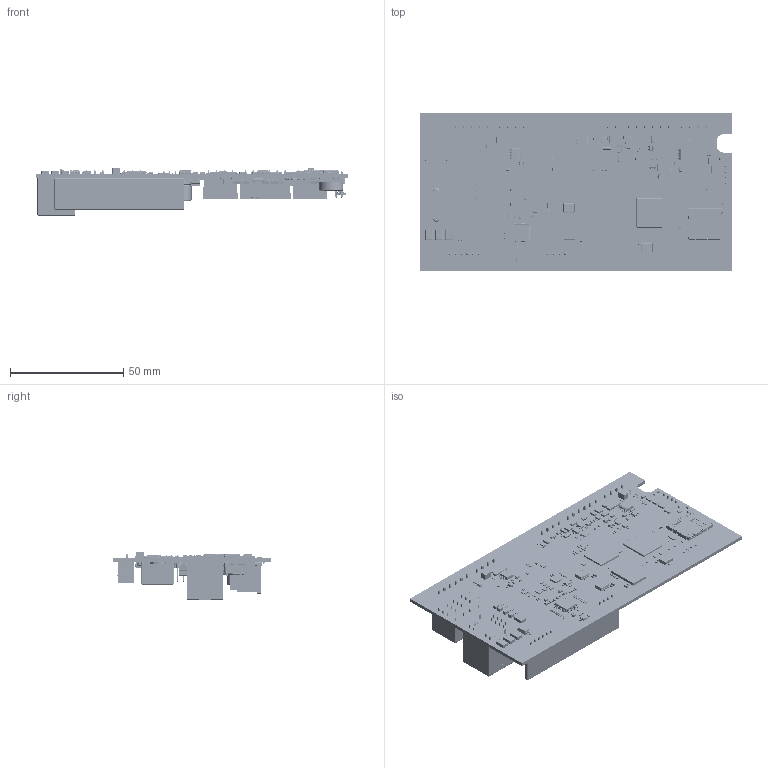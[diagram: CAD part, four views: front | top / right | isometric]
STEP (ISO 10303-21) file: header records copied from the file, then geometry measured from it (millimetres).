
FILE_DESCRIPTION(('Open CASCADE Model'),'2;1');
FILE_NAME('Open CASCADE Shape Model','2024-03-14T09:10:15',('Author'),( 'Open CASCADE'),'Open CASCADE STEP processor 7.5','Open CASCADE 7.5' ,'Unknown');
FILE_SCHEMA(('AUTOMOTIVE_DESIGN { 1 0 10303 214 1 1 1 1 }'));
Length unit declared in the file: millimetre
Products named in the file (1018): PCB; Board; Open CASCADE STEP translator 7.5 1.1.1; R1049; 6539089424; Mid_Body; Terminal; Open CASCADE STEP translator 6.8 1.2.1; Mark; R1048; R1047; 6539089264; R1046; R1246; 6539090464; Open CASCADE STEP translator 7.5 10.1.1; Open CASCADE STEP translator 7.5 10.1.2; Mid Body; Open CASCADE STEP translator 7.5 10.2.1; R1245; C1027; 6539087984; Open CASCADE STEP translator 7.5 6.1.1; Open CASCADE STEP translator 7.5 6.1.2; Open CASCADE STEP translator 7.5 6.2.1; U1000; 6776974784; Open CASCADE STEP translator 6.8 1.1; Body; Thermal_Shape; Pin_Shape; Open CASCADE STEP translator 6.8 1.4.1; D305; SW3dPS-DO-214AC SMA; D304; FIL300; Filter_TDK_ACM7060-701-2PL-TL01_eec; 1; 2; 3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
Assembly tree (1971 placements, depth 5):
  PCB
    Board
      Open CASCADE STEP translator 7.5 1.1.1
    R1049
      6539089424
        Mid_Body
        Terminal  x2
          Open CASCADE STEP translator 6.8 1.2.1
        Mark
    R1048
      6539089424
        Mid_Body
        Terminal  x2
          Open CASCADE STEP translator 6.8 1.2.1
        Mark
    R1047
      6539089264
        Mid_Body
        Terminal  x2
          Open CASCADE STEP translator 6.8 1.2.1
        Mark
    R1046
      6539089264
        Mid_Body
        Terminal  x2
          Open CASCADE STEP translator 6.8 1.2.1
        Mark
    R1246
      6539090464
        Terminal
          Open CASCADE STEP translator 7.5 10.1.1
          Open CASCADE STEP translator 7.5 10.1.2
        Mid Body
          Open CASCADE STEP translator 7.5 10.2.1
    R1245
      6539090464
        Terminal
          Open CASCADE STEP translator 7.5 10.1.1
          Open CASCADE STEP translator 7.5 10.1.2
        Mid Body
          Open CASCADE STEP translator 7.5 10.2.1
    C1027
      6539087984  x2
        Terminal
          Open CASCADE STEP translator 7.5 6.1.1
          Open CASCADE STEP translator 7.5 6.1.2
        Mid Body
          Open CASCADE STEP translator 7.5 6.2.1
    U1000
      6776974784
        Open CASCADE STEP translator 6.8 1.1
        Body
          Open CASCADE STEP translator 6.8 1.2.1
        Thermal_Shape
        Pin_Shape  x24
          Open CASCADE STEP translator 6.8 1.4.1
    D305
      SW3dPS-DO-214AC SMA
    D304
      SW3dPS-DO-214AC SMA
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Bounding box: 137.16 x 69.85 x 20.87 mm (x, y, z)
Volume: 33740.1 mm3; surface area: 57299 mm2
Topology: 3103 solids, 3113 shells, 47945 faces, 116608 edges, 72197 vertices
Faces by surface type: plane 29259, cylinder 8944, bspline 5630, sphere 3021, extrusion 628, torus 297, cone 166
Full cylindrical faces by diameter (mm): 0.13 x196, 0.15 x1, 0.262 x1, 0.27 x56, 0.272 x1, 0.309 x1, 0.5 x8, 0.6 x1, 0.7 x1, 0.748 x1, 0.875 x1, 1.2 x2, 2.485 x2, 2.5 x1, 6 x1, 6.3 x2, 10.7 x1
Entity records: 563854 total; most frequent: CARTESIAN_POINT 143090, ORIENTED_EDGE 72367, DIRECTION 65951, EDGE_CURVE 36186, VECTOR 26033, LINE 25570, VERTEX_POINT 23134, AXIS2_PLACEMENT_3D 19959
